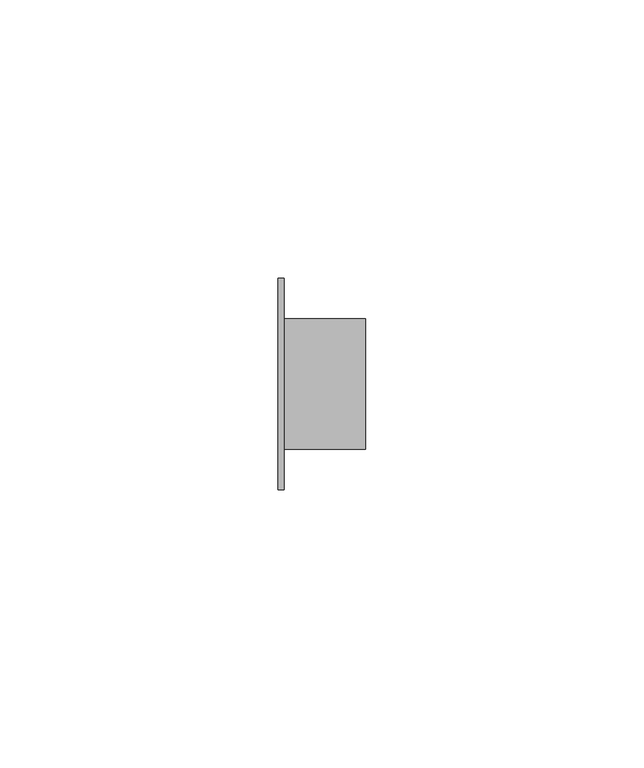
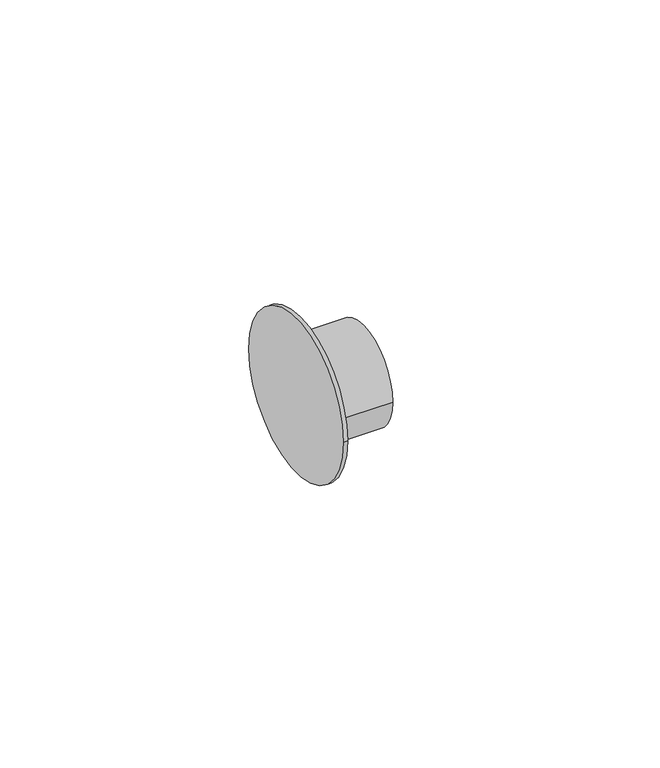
"""IFC4 building model written with IfcOpenShell, lengths in millimetres: pipe fitting geometry, Bucha de redução reta - Soldada - CU : Padrão."""

from ifc_helpers import new_model, si_unit, frame, origin, place, context, project, spatial, circle_curve, source, transform, mapped, element, save
from ifc_brep_helpers import plane_surface, cylinder_surface, advanced_brep


def pipe_fitting_bb3b7f9b(model_context):
    return source(origin(), model_context, "Body", "AdvancedBrep", [
        advanced_brep(
        [(0.0, -18.95, 0.0), (0.0, 18.95, 0.0), (1.0, -18.95, 0.0), (1.0, 18.95, 0.0), (1.0, -11.7322, 0.0), (1.0, 11.7322, 0.0), (15.6434, -11.7322, 0.0), (15.6434, 11.7322, 0.0)],
        [
            (0, 1, circle_curve(frame((0.0, 0.0, 0.0), z_axis=(-1.0, 0.0, 0.0), x_axis=(0.0, 1.0, 0.0)), 18.95)),
            (1, 0, circle_curve(frame((0.0, 0.0, 0.0), z_axis=(-1.0, 0.0, 0.0), x_axis=(0.0, 1.0, 0.0)), 18.95)),
            (2, 3, circle_curve(frame((1.0, 0.0, 0.0), z_axis=(1.0, 0.0, 0.0), x_axis=(0.0, 1.0, 0.0)), 18.95)),
            (3, 2, circle_curve(frame((1.0, 0.0, 0.0), z_axis=(1.0, 0.0, 0.0), x_axis=(0.0, 1.0, 0.0)), 18.95)),
            (4, 5, circle_curve(frame((1.0, 0.0, 0.0), z_axis=(-1.0, 0.0, 0.0), x_axis=(0.0, 1.0, 0.0)), 11.7322)),
            (5, 4, circle_curve(frame((1.0, 0.0, 0.0), z_axis=(-1.0, 0.0, 0.0), x_axis=(0.0, 1.0, 0.0)), 11.7322)),
            (0, 2),
            (3, 1),
            (6, 7, circle_curve(frame((15.6434, 0.0, 0.0), z_axis=(1.0, 0.0, 0.0), x_axis=(0.0, 1.0, 0.0)), 11.7322)),
            (7, 6, circle_curve(frame((15.6434, 0.0, 0.0), z_axis=(1.0, 0.0, 0.0), x_axis=(0.0, 1.0, 0.0)), 11.7322)),
            (7, 5),
            (4, 6),
        ],
        [
            plane_surface(frame((0.0, 0.0, 0.0), z_axis=(-1.0, 0.0, 0.0), x_axis=(0.0, 0.0, 1.0))),
            plane_surface(frame((1.0, 0.0, 0.0), z_axis=(1.0, 0.0, 0.0), x_axis=(0.0, 0.0, 1.0))),
            cylinder_surface(frame((0.0, 0.0, 0.0), z_axis=(-1.0, 0.0, 0.0), x_axis=(0.0, 1.0, 0.0)), 18.95),
            plane_surface(frame((15.6434, 0.0, 0.0), z_axis=(1.0, 0.0, 0.0), x_axis=(0.0, 0.0, 1.0))),
            cylinder_surface(frame((1.0, 0.0, 0.0), z_axis=(-1.0, 0.0, 0.0), x_axis=(0.0, 1.0, 0.0)), 11.7322),
        ],
        [
            (0, [[1, 2]]),
            (1, [[3, 4], [5, 6]]),
            (2, [[-1, 7, -4, 8]]),
            (2, [[-2, -8, -3, -7]]),
            (3, [[9, 10]]),
            (4, [[-10, 11, -5, 12]]),
            (4, [[-9, -12, -6, -11]]),
        ],
    ),
    ])


if __name__ == "__main__":
    model = new_model("IFC4")
    model_context = context("Model", 3, world=origin())
    ifc_project = project(units=[si_unit("LENGTHUNIT", "METRE", prefix="MILLI")], contexts=[model_context])
    site = spatial("IfcSite", under=ifc_project)
    building = spatial("IfcBuilding", under=site)
    placement = place(None, origin())
    pipe_fitting_shape = pipe_fitting_bb3b7f9b(model_context)
    element("IfcPipeFitting", 1, ObjectType="Bucha de redução reta - Soldada - CU : Padrão", at=placement, inside=building, context=model_context, shape_type="MappedRepresentation", body=[
        mapped(pipe_fitting_shape, transform((0.0, 0.0, 0.0), x_axis=(1.0, 0.0, 0.0), y_axis=(0.0, 1.0, 0.0), z_axis=(0.0, 0.0, 1.0))),
    ])
    save(model, "model.ifc")
